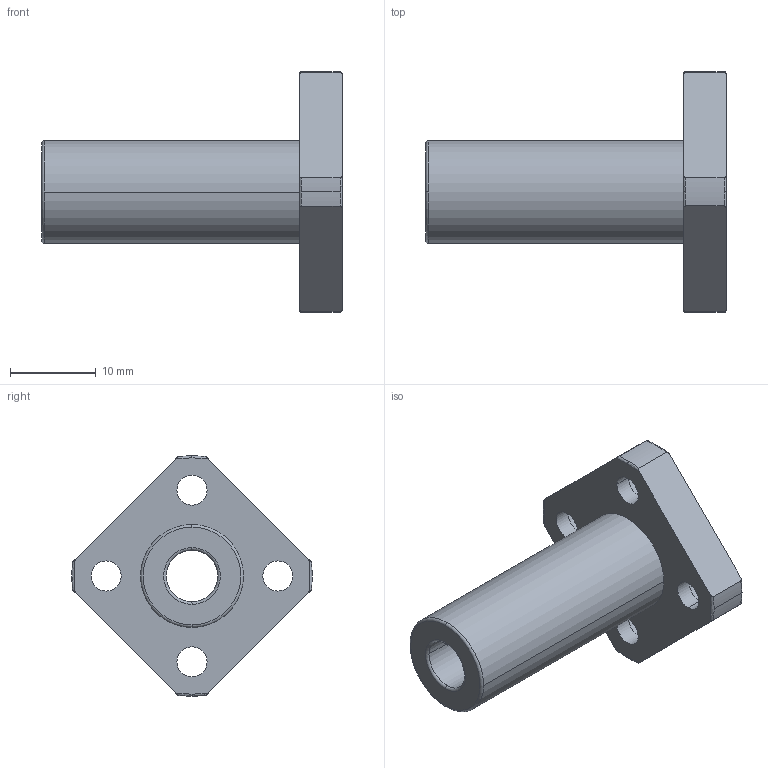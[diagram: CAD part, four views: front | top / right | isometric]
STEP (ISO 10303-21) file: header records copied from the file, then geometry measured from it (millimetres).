
FILE_DESCRIPTION(('FreeCAD Model'),'2;1');
FILE_NAME('Open CASCADE Shape Model','2021-05-03T13:56:41',('Author'),( ''),'Open CASCADE STEP processor 7.5','FreeCAD','Unknown');
FILE_SCHEMA(('AUTOMOTIVE_DESIGN { 1 0 10303 214 1 1 1 1 }'));
Length unit declared in the file: millimetre
Products named in the file (1): linear_lmk6luu
Bounding box: 35 x 28 x 28 mm (x, y, z)
Volume: 4347.4 mm3; surface area: 3322.3 mm2
Topology: 1 solids, 1 shells, 55 faces, 147 edges, 99 vertices
Faces by surface type: cylinder 26, torus 18, plane 11
Entity records: 4837 total; most frequent: CARTESIAN_POINT 1912, DIRECTION 560, ORIENTED_EDGE 294, PCURVE 294, DEFINITIONAL_REPRESENTATION 294, LINE 245, VECTOR 245, AXIS2_PLACEMENT_3D 149
